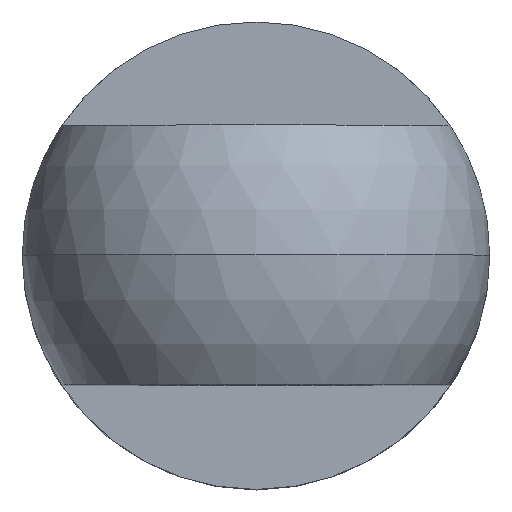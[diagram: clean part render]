
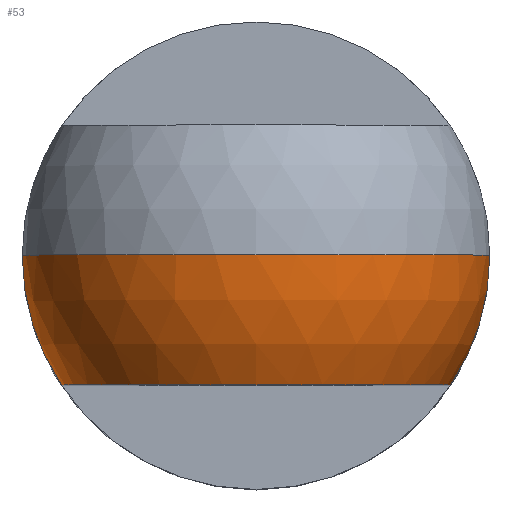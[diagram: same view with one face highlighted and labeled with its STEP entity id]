
A CAD part, top view. The second image highlights one B-rep face of the part: STEP entity #53.
In plain terms, the highlighted spherical face has radius 9 mm.
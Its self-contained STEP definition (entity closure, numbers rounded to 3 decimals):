
#5 = VERTEX_POINT ( 'NONE', #202 ) ;
#14 = CIRCLE ( 'NONE', #455, 7.483 ) ;
#43 = ORIENTED_EDGE ( 'NONE', *, *, #403, .F. ) ;
#53 = ADVANCED_FACE ( 'NONE', ( #511 ), #285, .T. ) ;
#62 = AXIS2_PLACEMENT_3D ( 'NONE', #192, #299, #631 ) ;
#63 = ORIENTED_EDGE ( 'NONE', *, *, #422, .T. ) ;
#79 = CARTESIAN_POINT ( 'NONE',  ( 0., -5., 25. ) ) ;
#112 = CIRCLE ( 'NONE', #381, 9. ) ;
#114 = CIRCLE ( 'NONE', #283, 9. ) ;
#127 = CIRCLE ( 'NONE', #600, 9. ) ;
#128 = CARTESIAN_POINT ( 'NONE',  ( 0., 0., 34. ) ) ;
#134 = DIRECTION ( 'NONE',  ( 0., 1., 0. ) ) ;
#159 = DIRECTION ( 'NONE',  ( -1., 0., 0. ) ) ;
#192 = CARTESIAN_POINT ( 'NONE',  ( 0., 0., 25. ) ) ;
#202 = CARTESIAN_POINT ( 'NONE',  ( 7.483, -5., 25. ) ) ;
#242 = CARTESIAN_POINT ( 'NONE',  ( -7.483, -5., 25. ) ) ;
#246 = DIRECTION ( 'NONE',  ( 0., 0., -1. ) ) ;
#267 = CARTESIAN_POINT ( 'NONE',  ( 0., 0., 25. ) ) ;
#279 = VERTEX_POINT ( 'NONE', #379 ) ;
#283 = AXIS2_PLACEMENT_3D ( 'NONE', #436, #583, #246 ) ;
#285 = SPHERICAL_SURFACE ( 'NONE', #534, 9. ) ;
#291 = CARTESIAN_POINT ( 'NONE',  ( 9., 0., 25. ) ) ;
#299 = DIRECTION ( 'NONE',  ( 0., 1., 0. ) ) ;
#306 = VERTEX_POINT ( 'NONE', #242 ) ;
#330 = EDGE_CURVE ( 'NONE', #352, #5, #127, .T. ) ;
#349 = VERTEX_POINT ( 'NONE', #128 ) ;
#352 = VERTEX_POINT ( 'NONE', #291 ) ;
#355 = DIRECTION ( 'NONE',  ( 0., 0., 1. ) ) ;
#362 = DIRECTION ( 'NONE',  ( 0., 1., 0. ) ) ;
#379 = CARTESIAN_POINT ( 'NONE',  ( -9., 0., 25. ) ) ;
#381 = AXIS2_PLACEMENT_3D ( 'NONE', #567, #425, #570 ) ;
#403 = EDGE_CURVE ( 'NONE', #349, #352, #463, .T. ) ;
#408 = ORIENTED_EDGE ( 'NONE', *, *, #330, .F. ) ;
#415 = EDGE_CURVE ( 'NONE', #349, #279, #114, .T. ) ;
#422 = EDGE_CURVE ( 'NONE', #306, #5, #14, .T. ) ;
#425 = DIRECTION ( 'NONE',  ( 0., 0., -1. ) ) ;
#436 = CARTESIAN_POINT ( 'NONE',  ( 0., 0., 25. ) ) ;
#441 = DIRECTION ( 'NONE',  ( -1., 0., 0. ) ) ;
#455 = AXIS2_PLACEMENT_3D ( 'NONE', #79, #134, #355 ) ;
#463 = CIRCLE ( 'NONE', #62, 9. ) ;
#511 = FACE_OUTER_BOUND ( 'NONE', #607, .T. ) ;
#534 = AXIS2_PLACEMENT_3D ( 'NONE', #267, #362, #159 ) ;
#535 = CARTESIAN_POINT ( 'NONE',  ( 0., 0., 25. ) ) ;
#551 = ORIENTED_EDGE ( 'NONE', *, *, #415, .T. ) ;
#567 = CARTESIAN_POINT ( 'NONE',  ( 0., 0., 25. ) ) ;
#570 = DIRECTION ( 'NONE',  ( -1., 0., 0. ) ) ;
#572 = ORIENTED_EDGE ( 'NONE', *, *, #585, .F. ) ;
#583 = DIRECTION ( 'NONE',  ( 0., -1., 0. ) ) ;
#585 = EDGE_CURVE ( 'NONE', #306, #279, #112, .T. ) ;
#600 = AXIS2_PLACEMENT_3D ( 'NONE', #535, #628, #441 ) ;
#607 = EDGE_LOOP ( 'NONE', ( #43, #551, #572, #63, #408 ) ) ;
#628 = DIRECTION ( 'NONE',  ( 0., 0., -1. ) ) ;
#631 = DIRECTION ( 'NONE',  ( -1., 0., 0. ) ) ;
